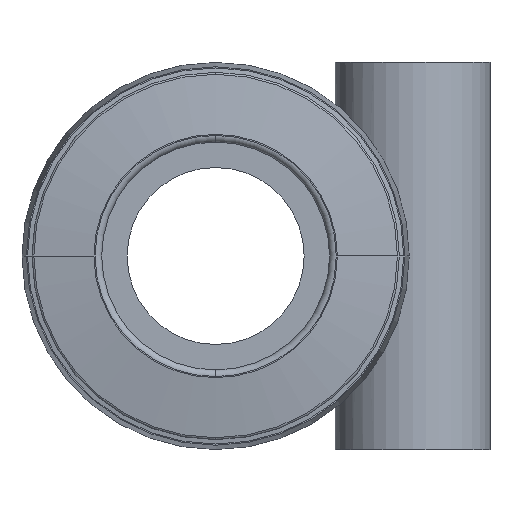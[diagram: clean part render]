
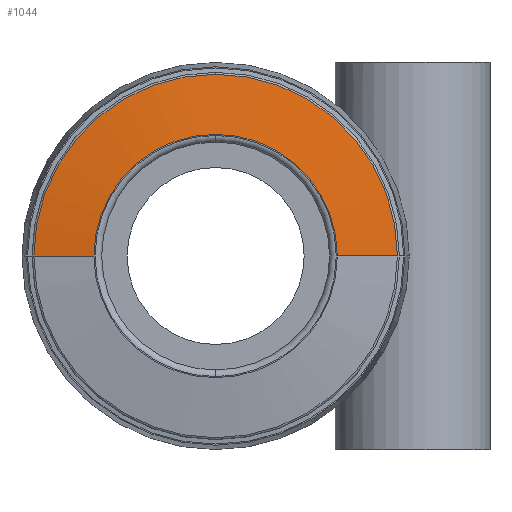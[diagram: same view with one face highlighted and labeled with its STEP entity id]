
A CAD part, front view. The second image highlights one B-rep face of the part: STEP entity #1044.
In plain terms, the highlighted conical face has half-angle 81.87 degrees and reference radius 6.857 mm.
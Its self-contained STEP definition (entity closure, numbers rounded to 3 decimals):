
#33 = DIRECTION ( 'NONE',  ( 0., 1., 0. ) ) ;
#46 = ORIENTED_EDGE ( 'NONE', *, *, #1140, .F. ) ;
#100 = CARTESIAN_POINT ( 'NONE',  ( 0., -21.75, 0. ) ) ;
#117 = ORIENTED_EDGE ( 'NONE', *, *, #1287, .F. ) ;
#135 = CIRCLE ( 'NONE', #629, 8.214 ) ;
#148 = CARTESIAN_POINT ( 'NONE',  ( -8.214, -21.362, 0. ) ) ;
#200 = ORIENTED_EDGE ( 'NONE', *, *, #748, .T. ) ;
#202 = FACE_OUTER_BOUND ( 'NONE', #245, .T. ) ;
#218 = EDGE_CURVE ( 'NONE', #1073, #505, #311, .T. ) ;
#231 = DIRECTION ( 'NONE',  ( -0.99, 0.141, 0. ) ) ;
#245 = EDGE_LOOP ( 'NONE', ( #200, #484, #1899, #46, #117 ) ) ;
#284 = CARTESIAN_POINT ( 'NONE',  ( 6.857, -21.556, 0. ) ) ;
#288 = CARTESIAN_POINT ( 'NONE',  ( -5.5, -21.75, 0. ) ) ;
#311 = LINE ( 'NONE', #284, #488 ) ;
#412 = DIRECTION ( 'NONE',  ( -1., 0., 0. ) ) ;
#449 = EDGE_CURVE ( 'NONE', #1892, #505, #1625, .T. ) ;
#484 = ORIENTED_EDGE ( 'NONE', *, *, #218, .T. ) ;
#488 = VECTOR ( 'NONE', #1281, 1000. ) ;
#490 = CARTESIAN_POINT ( 'NONE',  ( 5.5, -21.75, 0. ) ) ;
#505 = VERTEX_POINT ( 'NONE', #1452 ) ;
#613 = VERTEX_POINT ( 'NONE', #148 ) ;
#629 = AXIS2_PLACEMENT_3D ( 'NONE', #1464, #1309, #1949 ) ;
#652 = DIRECTION ( 'NONE',  ( -1., 0., 0. ) ) ;
#678 = CARTESIAN_POINT ( 'NONE',  ( 0., -21.556, 0. ) ) ;
#748 = EDGE_CURVE ( 'NONE', #1585, #1073, #787, .T. ) ;
#787 = CIRCLE ( 'NONE', #1901, 5.5 ) ;
#816 = DIRECTION ( 'NONE',  ( 0., 1., 0. ) ) ;
#970 = CARTESIAN_POINT ( 'NONE',  ( 0., -21.362, 0. ) ) ;
#1028 = CONICAL_SURFACE ( 'NONE', #2039, 6.857, 1.429 ) ;
#1044 = ADVANCED_FACE ( 'NONE', ( #202 ), #1028, .T. ) ;
#1073 = VERTEX_POINT ( 'NONE', #490 ) ;
#1140 = EDGE_CURVE ( 'NONE', #613, #1892, #135, .T. ) ;
#1200 = AXIS2_PLACEMENT_3D ( 'NONE', #970, #33, #652 ) ;
#1203 = VECTOR ( 'NONE', #231, 1000. ) ;
#1219 = CARTESIAN_POINT ( 'NONE',  ( 0., -21.362, 8.214 ) ) ;
#1281 = DIRECTION ( 'NONE',  ( 0.99, 0.141, 0. ) ) ;
#1287 = EDGE_CURVE ( 'NONE', #1585, #613, #1677, .T. ) ;
#1309 = DIRECTION ( 'NONE',  ( 0., 1., 0. ) ) ;
#1452 = CARTESIAN_POINT ( 'NONE',  ( 8.214, -21.362, 0. ) ) ;
#1464 = CARTESIAN_POINT ( 'NONE',  ( 0., -21.362, 0. ) ) ;
#1585 = VERTEX_POINT ( 'NONE', #288 ) ;
#1625 = CIRCLE ( 'NONE', #1200, 8.214 ) ;
#1628 = DIRECTION ( 'NONE',  ( -1., 0., 0. ) ) ;
#1677 = LINE ( 'NONE', #1844, #1203 ) ;
#1844 = CARTESIAN_POINT ( 'NONE',  ( -6.857, -21.556, 0. ) ) ;
#1858 = DIRECTION ( 'NONE',  ( 0., 1., 0. ) ) ;
#1892 = VERTEX_POINT ( 'NONE', #1219 ) ;
#1899 = ORIENTED_EDGE ( 'NONE', *, *, #449, .F. ) ;
#1901 = AXIS2_PLACEMENT_3D ( 'NONE', #100, #1858, #412 ) ;
#1949 = DIRECTION ( 'NONE',  ( -1., 0., 0. ) ) ;
#2039 = AXIS2_PLACEMENT_3D ( 'NONE', #678, #816, #1628 ) ;
